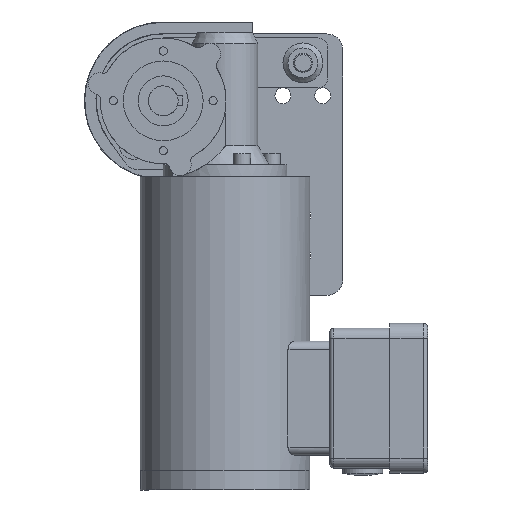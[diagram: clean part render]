
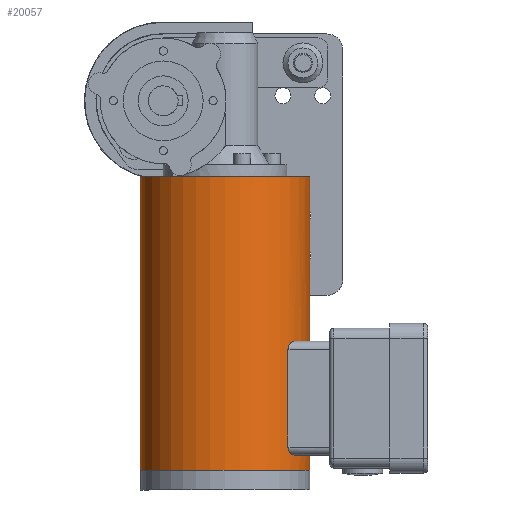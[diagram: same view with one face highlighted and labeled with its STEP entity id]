
A CAD part, left-side view. The second image highlights one B-rep face of the part: STEP entity #20057.
In plain terms, the highlighted cylindrical face has radius 42.5 mm (diameter 85 mm), a full revolution.
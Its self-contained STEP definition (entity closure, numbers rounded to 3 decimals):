
#10444=CARTESIAN_POINT('',(-198.535,58.531,-1071.397));
#10445=VERTEX_POINT('',#10444);
#10446=CARTESIAN_POINT('',(-198.535,58.531,-1022.397));
#10447=VERTEX_POINT('',#10446);
#10448=CARTESIAN_POINT('',(-198.535,58.531,-1071.397));
#10449=DIRECTION('',(0.0,0.0,1.0));
#10450=VECTOR('',#10449,49.0);
#10451=LINE('',#10448,#10450);
#10452=EDGE_CURVE('',#10445,#10447,#10451,.T.);
#10484=CARTESIAN_POINT('',(-194.535,55.331,-1075.397));
#10485=VERTEX_POINT('',#10484);
#10486=CARTESIAN_POINT('',(-194.535,55.331,-1075.397));
#10487=CARTESIAN_POINT('',(-195.062,55.703,-1075.397));
#10488=CARTESIAN_POINT('',(-195.619,56.116,-1075.288));
#10489=CARTESIAN_POINT('',(-196.647,56.916,-1074.84));
#10490=CARTESIAN_POINT('',(-197.119,57.303,-1074.501));
#10491=CARTESIAN_POINT('',(-197.789,57.87,-1073.764));
#10492=CARTESIAN_POINT('',(-198.061,58.108,-1073.351));
#10493=CARTESIAN_POINT('',(-198.435,58.44,-1072.419));
#10494=CARTESIAN_POINT('',(-198.535,58.531,-1071.899));
#10495=CARTESIAN_POINT('',(-198.535,58.531,-1071.397));
#10496=B_SPLINE_CURVE_WITH_KNOTS('',3,(#10486,#10487,#10488,#10489,#10490,#10491,#10492,#10493,#10494,#10495),.UNSPECIFIED.,.F.,.U.,(4,2,2,2,4),(-0.688,-0.495,-0.301,-0.151,0.0),.UNSPECIFIED.);
#10497=EDGE_CURVE('',#10485,#10445,#10496,.T.);
#10523=CARTESIAN_POINT('',(-145.535,55.333,-1075.397));
#10524=VERTEX_POINT('',#10523);
#10525=CARTESIAN_POINT('',(-170.036,90.06,-1075.397));
#10526=DIRECTION('',(0.,0.,-1.0));
#10527=DIRECTION('',(0.,1.,0.));
#10528=AXIS2_PLACEMENT_3D('',#10525,#10526,#10527);
#10529=CIRCLE('',#10528,42.5);
#10530=EDGE_CURVE('',#10524,#10485,#10529,.T.);
#10555=CARTESIAN_POINT('',(-141.535,58.533,-1071.397));
#10556=VERTEX_POINT('',#10555);
#10557=CARTESIAN_POINT('',(-141.535,58.533,-1071.397));
#10558=CARTESIAN_POINT('',(-141.535,58.533,-1071.899));
#10559=CARTESIAN_POINT('',(-141.636,58.442,-1072.419));
#10560=CARTESIAN_POINT('',(-142.009,58.11,-1073.351));
#10561=CARTESIAN_POINT('',(-142.281,57.872,-1073.764));
#10562=CARTESIAN_POINT('',(-142.951,57.305,-1074.501));
#10563=CARTESIAN_POINT('',(-143.423,56.918,-1074.84));
#10564=CARTESIAN_POINT('',(-144.451,56.118,-1075.288));
#10565=CARTESIAN_POINT('',(-145.009,55.705,-1075.397));
#10566=CARTESIAN_POINT('',(-145.535,55.333,-1075.397));
#10567=B_SPLINE_CURVE_WITH_KNOTS('',3,(#10557,#10558,#10559,#10560,#10561,#10562,#10563,#10564,#10565,#10566),.UNSPECIFIED.,.F.,.U.,(4,2,2,2,4),(1.348,1.499,1.649,1.843,2.036),.UNSPECIFIED.);
#10568=EDGE_CURVE('',#10556,#10524,#10567,.T.);
#11380=CARTESIAN_POINT('',(-141.535,58.533,-1022.397));
#11381=VERTEX_POINT('',#11380);
#11382=CARTESIAN_POINT('',(-141.535,58.533,-1022.397));
#11383=DIRECTION('',(0.0,0.0,-1.0));
#11384=VECTOR('',#11383,49.0);
#11385=LINE('',#11382,#11384);
#11386=EDGE_CURVE('',#11381,#10556,#11385,.T.);
#11404=CARTESIAN_POINT('',(-145.535,55.333,-1018.397));
#11405=VERTEX_POINT('',#11404);
#11406=CARTESIAN_POINT('',(-145.535,55.333,-1018.397));
#11407=CARTESIAN_POINT('',(-145.039,55.684,-1018.397));
#11408=CARTESIAN_POINT('',(-144.512,56.073,-1018.494));
#11409=CARTESIAN_POINT('',(-143.53,56.832,-1018.895));
#11410=CARTESIAN_POINT('',(-143.076,57.202,-1019.199));
#11411=CARTESIAN_POINT('',(-142.379,57.788,-1019.897));
#11412=CARTESIAN_POINT('',(-142.073,58.054,-1020.324));
#11413=CARTESIAN_POINT('',(-141.651,58.428,-1021.304));
#11414=CARTESIAN_POINT('',(-141.535,58.533,-1021.857));
#11415=CARTESIAN_POINT('',(-141.535,58.533,-1022.397));
#11416=B_SPLINE_CURVE_WITH_KNOTS('',3,(#11406,#11407,#11408,#11409,#11410,#11411,#11412,#11413,#11414,#11415),.UNSPECIFIED.,.F.,.U.,(4,2,2,2,4),(0.66,0.842,1.024,1.186,1.348),.UNSPECIFIED.);
#11417=EDGE_CURVE('',#11405,#11381,#11416,.T.);
#11435=CARTESIAN_POINT('',(-194.535,55.331,-1018.397));
#11436=VERTEX_POINT('',#11435);
#11437=CARTESIAN_POINT('',(-170.036,90.06,-1018.397));
#11438=DIRECTION('',(0.,0.,1.0));
#11439=DIRECTION('',(0.,1.,0.));
#11440=AXIS2_PLACEMENT_3D('',#11437,#11438,#11439);
#11441=CIRCLE('',#11440,42.5);
#11442=EDGE_CURVE('',#11436,#11405,#11441,.T.);
#11460=CARTESIAN_POINT('',(-198.535,58.531,-1022.397));
#11461=CARTESIAN_POINT('',(-198.535,58.531,-1021.857));
#11462=CARTESIAN_POINT('',(-198.42,58.426,-1021.304));
#11463=CARTESIAN_POINT('',(-197.998,58.052,-1020.324));
#11464=CARTESIAN_POINT('',(-197.692,57.786,-1019.897));
#11465=CARTESIAN_POINT('',(-196.994,57.2,-1019.199));
#11466=CARTESIAN_POINT('',(-196.54,56.83,-1018.895));
#11467=CARTESIAN_POINT('',(-195.559,56.071,-1018.494));
#11468=CARTESIAN_POINT('',(-195.032,55.682,-1018.397));
#11469=CARTESIAN_POINT('',(-194.535,55.331,-1018.397));
#11470=B_SPLINE_CURVE_WITH_KNOTS('',3,(#11460,#11461,#11462,#11463,#11464,#11465,#11466,#11467,#11468,#11469),.UNSPECIFIED.,.F.,.U.,(4,2,2,2,4),(0.0,0.162,0.324,0.506,0.688),.UNSPECIFIED.);
#11471=EDGE_CURVE('',#10447,#11436,#11470,.T.);
#19968=CARTESIAN_POINT('',(-170.035,47.56,-935.897));
#19969=VERTEX_POINT('',#19968);
#19970=CARTESIAN_POINT('',(-170.036,90.06,-935.897));
#19971=DIRECTION('',(0.,0.,-1.0));
#19972=DIRECTION('',(0.,1.,0.));
#19973=AXIS2_PLACEMENT_3D('',#19970,#19971,#19972);
#19974=CIRCLE('',#19973,42.5);
#19975=EDGE_CURVE('',#19969,#19969,#19974,.T.);
#20021=CARTESIAN_POINT('',(-170.038,132.56,-1082.897));
#20022=VERTEX_POINT('',#20021);
#20023=CARTESIAN_POINT('',(-170.036,90.06,-1082.897));
#20024=DIRECTION('',(0.,0.,1.0));
#20025=DIRECTION('',(0.,1.,0.));
#20026=AXIS2_PLACEMENT_3D('',#20023,#20024,#20025);
#20027=CIRCLE('',#20026,42.5);
#20028=EDGE_CURVE('',#20022,#20022,#20027,.T.);
#20036=CARTESIAN_POINT('',(-170.036,90.06,-935.897));
#20037=DIRECTION('',(0.,0.,-1.0));
#20038=DIRECTION('',(0.,1.,0.));
#20039=AXIS2_PLACEMENT_3D('',#20036,#20037,#20038);
#20040=CYLINDRICAL_SURFACE('',#20039,42.5);
#20041=ORIENTED_EDGE('',*,*,#10568,.T.);
#20042=ORIENTED_EDGE('',*,*,#10530,.T.);
#20043=ORIENTED_EDGE('',*,*,#10497,.T.);
#20044=ORIENTED_EDGE('',*,*,#10452,.T.);
#20045=ORIENTED_EDGE('',*,*,#11471,.T.);
#20046=ORIENTED_EDGE('',*,*,#11442,.T.);
#20047=ORIENTED_EDGE('',*,*,#11417,.T.);
#20048=ORIENTED_EDGE('',*,*,#11386,.T.);
#20049=EDGE_LOOP('',(#20041,#20042,#20043,#20044,#20045,#20046,#20047,#20048));
#20050=FACE_OUTER_BOUND('',#20049,.T.);
#20051=ORIENTED_EDGE('',*,*,#20028,.T.);
#20052=EDGE_LOOP('',(#20051));
#20053=FACE_BOUND('',#20052,.T.);
#20054=ORIENTED_EDGE('',*,*,#19975,.T.);
#20055=EDGE_LOOP('',(#20054));
#20056=FACE_BOUND('',#20055,.T.);
#20057=ADVANCED_FACE('',(#20050,#20053,#20056),#20040,.T.);
